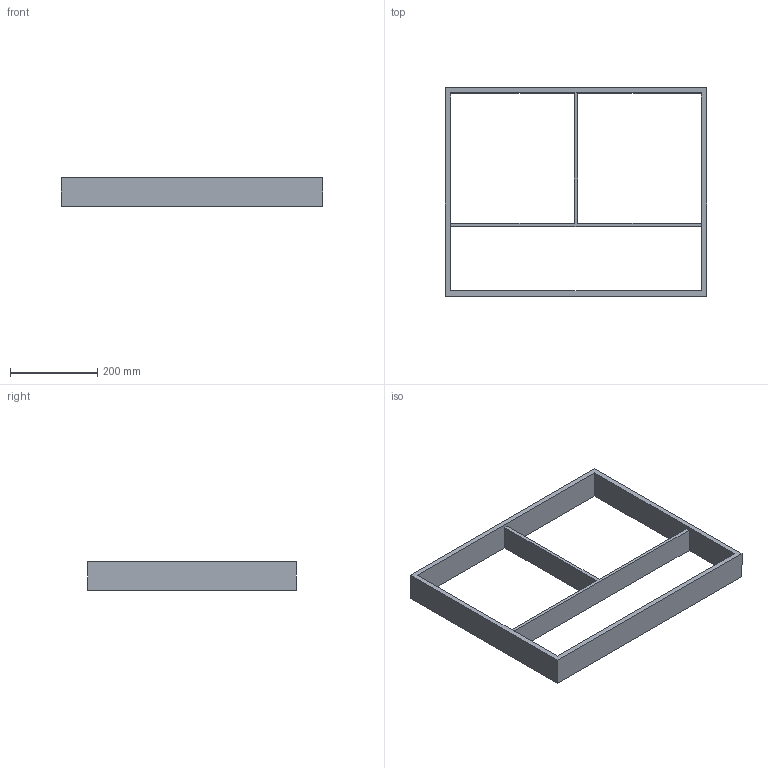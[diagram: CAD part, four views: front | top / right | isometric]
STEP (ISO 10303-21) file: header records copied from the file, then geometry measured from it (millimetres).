
FILE_DESCRIPTION (( 'STEP AP214' ), '1' );
FILE_NAME ('Vario Multi NL500_ZE600_16 mm_Alu.step', '2010-10-07T06:24:36', ( 'grass' ), ( '' ), 'SwSTEP 2.0', 'SolidWorks 2010', '' );
FILE_SCHEMA (( 'AUTOMOTIVE_DESIGN' ));
Length unit declared in the file: millimetre
Products named in the file (1): Vario Multi NL500_ZE600_16 mm_Alu
Bounding box: 600 x 479 x 65 mm (x, y, z)
Volume: 2044708.8 mm3; surface area: 436840 mm2
Topology: 1 solids, 1 shells, 16 faces, 48 edges, 32 vertices
Faces by surface type: plane 16
Entity records: 578 total; most frequent: CARTESIAN_POINT 97, ORIENTED_EDGE 96, DIRECTION 82, EDGE_CURVE 48, LINE 48, VECTOR 48, VERTEX_POINT 32, EDGE_LOOP 20
